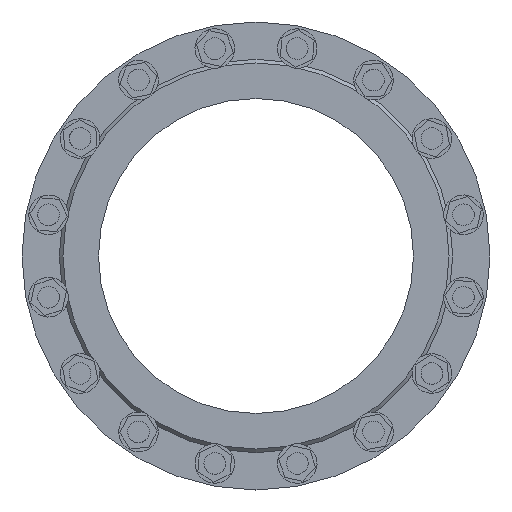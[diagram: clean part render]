
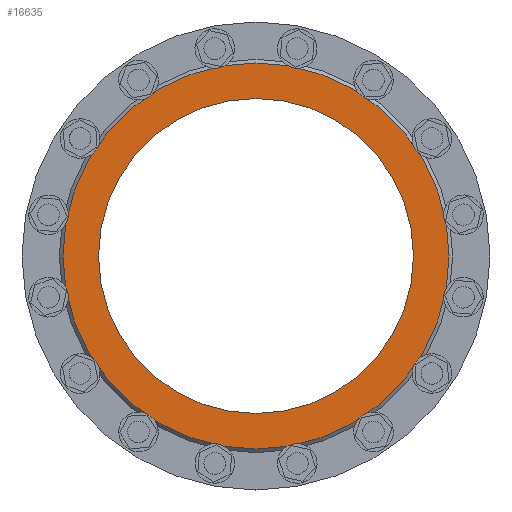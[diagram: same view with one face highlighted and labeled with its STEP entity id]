
A CAD part, left-side view. The second image highlights one B-rep face of the part: STEP entity #16635.
In plain terms, the highlighted planar face has unit normal (-1, 0, 0).
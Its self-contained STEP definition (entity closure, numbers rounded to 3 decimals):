
#207 = ORIENTED_EDGE ( 'NONE', *, *, #2054, .T. ) ;
#783 = EDGE_LOOP ( 'NONE', ( #4715 ) ) ;
#2054 = EDGE_CURVE ( 'NONE', #25079, #25079, #16759, .T. ) ;
#2319 = DIRECTION ( 'NONE',  ( -1., 0., 0. ) ) ;
#2840 = CARTESIAN_POINT ( 'NONE',  ( -15., 0., -175. ) ) ;
#4502 = DIRECTION ( 'NONE',  ( 1., 0., 0. ) ) ;
#4715 = ORIENTED_EDGE ( 'NONE', *, *, #10494, .T. ) ;
#5394 = EDGE_LOOP ( 'NONE', ( #207 ) ) ;
#5698 = DIRECTION ( 'NONE',  ( 0., 1., 0. ) ) ;
#5861 = CARTESIAN_POINT ( 'NONE',  ( -15., -214.5, 0. ) ) ;
#7165 = DIRECTION ( 'NONE',  ( 1., 0., 0. ) ) ;
#7412 = CARTESIAN_POINT ( 'NONE',  ( -15., 0., 0. ) ) ;
#8566 = VERTEX_POINT ( 'NONE', #2840 ) ;
#9651 = PLANE ( 'NONE',  #20929 ) ;
#10494 = EDGE_CURVE ( 'NONE', #8566, #8566, #10552, .T. ) ;
#10552 = CIRCLE ( 'NONE', #23560, 175. ) ;
#12273 = FACE_OUTER_BOUND ( 'NONE', #5394, .T. ) ;
#14323 = AXIS2_PLACEMENT_3D ( 'NONE', #21653, #2319, #17454 ) ;
#15178 = DIRECTION ( 'NONE',  ( 0., 0., -1. ) ) ;
#16635 = ADVANCED_FACE ( 'NONE', ( #18123, #12273 ), #9651, .F. ) ;
#16759 = CIRCLE ( 'NONE', #14323, 214.5 ) ;
#17454 = DIRECTION ( 'NONE',  ( 0., -1., 0. ) ) ;
#18123 = FACE_BOUND ( 'NONE', #783, .T. ) ;
#19438 = CARTESIAN_POINT ( 'NONE',  ( -15., 0., 175. ) ) ;
#20929 = AXIS2_PLACEMENT_3D ( 'NONE', #19438, #4502, #5698 ) ;
#21653 = CARTESIAN_POINT ( 'NONE',  ( -15., 0., 0. ) ) ;
#23560 = AXIS2_PLACEMENT_3D ( 'NONE', #7412, #7165, #15178 ) ;
#25079 = VERTEX_POINT ( 'NONE', #5861 ) ;
